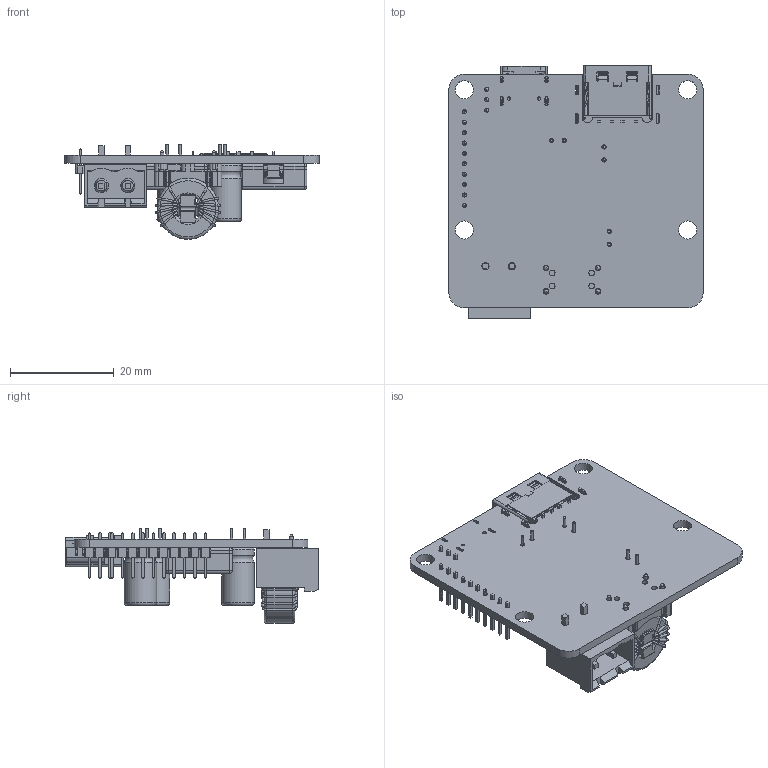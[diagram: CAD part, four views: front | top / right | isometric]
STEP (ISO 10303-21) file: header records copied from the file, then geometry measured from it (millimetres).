
FILE_DESCRIPTION(/* description */ (''),/* implementation_level */ '2;1');
FILE_NAME(/* name */ 'C:/Users/Kieran/Desktop/WTF-CCG3PA v2.step',/* time_stamp */ '2019-05-08T16:40:11-04:00',/* author */ ('calebpaine@gmail.com'),/* organization */ (''),/* preprocessor_version */ 'ST-DEVELOPER v18',/* originating_system */ 'Autodesk Translation Framework v8.2.0.1029',/* authorisation */ '');
FILE_SCHEMA (('AUTOMOTIVE_DESIGN { 1 0 10303 214 3 1 1 }'));
Products named in the file (38): WTF-CCG3PA; Board; type-c; TypeC(12); H1; 62000311121 (1); 6200xx11121_PIN; 62000311121; C16; USB1; AF_1; LED1; J1; 62001011121 (1); 6200xx11121_PIN (1); 62001011121; C17; L2; L1; 7443550x; Boden; Boden (1); Deckel; J_IN; c-796638-2-c3-3d; C35; CAPPR250-630X1120; CHK1; 7448014501_15x7,5x16; base_plate_XS; Core_cased_XS; Pin_XS; spacer-type-xs; turns; turns (1); LED2; LED_0603_Lens_BLUE; LED_0603_Base_BLUE
Assembly tree (56 placements, depth 4):
  WTF-CCG3PA
    Board
    type-c
      TypeC(12)
    H1
      62000311121 (1)
        6200xx11121_PIN  x3
        62000311121
    C16
      CAPPR250-630X1120
    USB1
      AF_1
    LED1
      LED_0603_Base_BLUE
      LED_0603_Lens_BLUE
    J1
      62001011121 (1)
        6200xx11121_PIN (1)  x10
        62001011121
    C17
      CAPPR250-630X1120
    L2
      7443550x
        Boden
        Boden (1)
        Deckel
    L1
      7443550x
        Boden
        Boden (1)
        Deckel
    J_IN
      c-796638-2-c3-3d
    C35
      CAPPR250-630X1120
    CHK1
      7448014501_15x7,5x16
        base_plate_XS
        Core_cased_XS
        Pin_XS  x4
        spacer-type-xs
        turns
        turns (1)
    LED2
      LED_0603_Lens_BLUE
      LED_0603_Base_BLUE
Bounding box: 49 x 48.68 x 18.25 mm (x, y, z)
Volume: 7524 mm3; surface area: 13594.2 mm2
Topology: 64 solids, 64 shells, 2410 faces, 6512 edges, 4271 vertices
Faces by surface type: plane 1700, cylinder 525, bspline 88, torus 61, sphere 32, cone 4
Full cylindrical faces by diameter (mm): 0.4 x54, 0.5 x8, 0.65 x2, 0.7 x4, 0.8 x19, 1 x4, 1.1 x8, 1.4 x2, 3.5 x4, 4.8 x12, 5.1 x1, 5.2 x2, 5.24 x4, 6.3 x6, 10.24 x4, 11.8 x1
Entity records: 69676 total; most frequent: CARTESIAN_POINT 17595, ORIENTED_EDGE 10656, DIRECTION 10224, EDGE_CURVE 5328, LINE 3998, VECTOR 3998, VERTEX_POINT 3540, AXIS2_PLACEMENT_3D 3113
